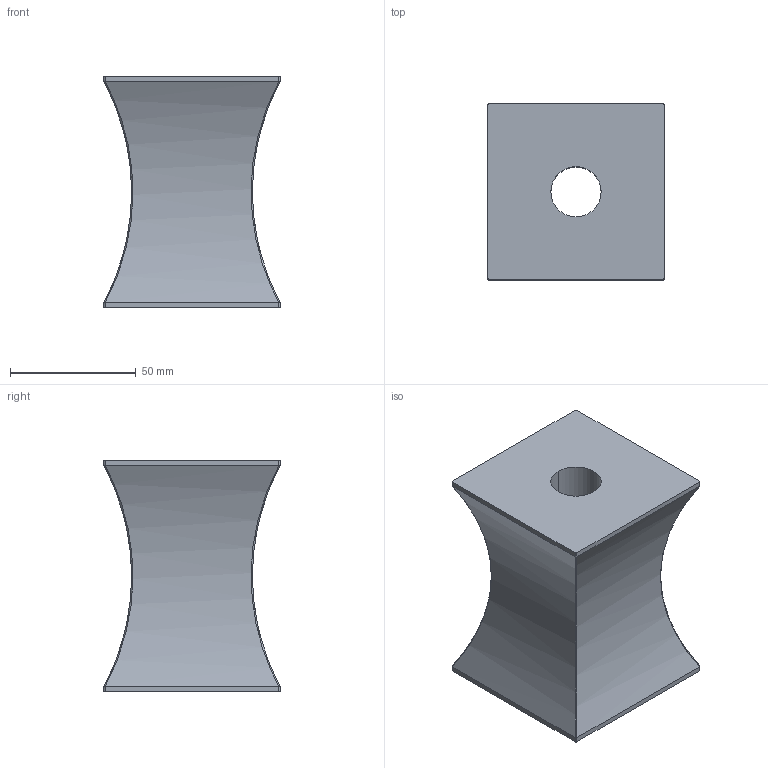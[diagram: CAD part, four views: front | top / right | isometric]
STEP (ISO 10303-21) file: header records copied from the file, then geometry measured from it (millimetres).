
FILE_DESCRIPTION(/* description */ (''),/* implementation_level */ '2;1');
FILE_NAME(/* name */ '3d_qx70-92_06521_r00.stp',/* time_stamp */ '2011-01-10T14:11:39+09:00',/* author */ ('MISUMI'),/* organization */ (''),/* preprocessor_version */ 'ST-DEVELOPER v11',/* originating_system */ 'UGS - NX 5.0',/* authorisation */ '');
FILE_SCHEMA (('CONFIG_CONTROL_DESIGN'));
Length unit declared in the file: millimetre
Products named in the file (1): 3d_qx70-92_06521_r00
Bounding box: 70 x 70 x 92 mm (x, y, z)
Volume: 262063.5 mm3; surface area: 36300.4 mm2
Topology: 1 solids, 1 shells, 28 faces, 78 edges, 52 vertices
Faces by surface type: cylinder 14, plane 10, bspline 4
Entity records: 4532 total; most frequent: CARTESIAN_POINT 3783, ORIENTED_EDGE 156, DIRECTION 108, EDGE_CURVE 78, VERTEX_POINT 52, AXIS2_PLACEMENT_3D 37, LINE 34, VECTOR 34
